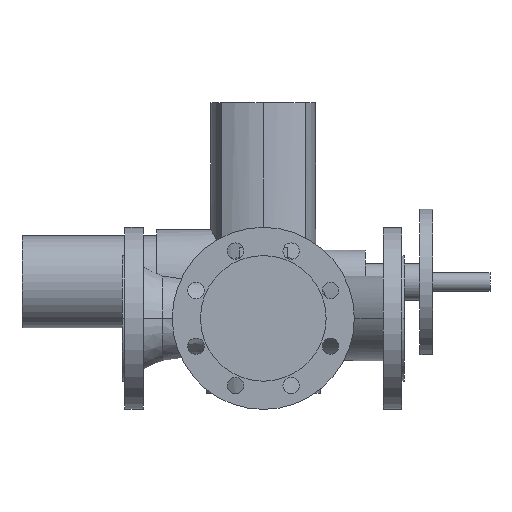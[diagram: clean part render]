
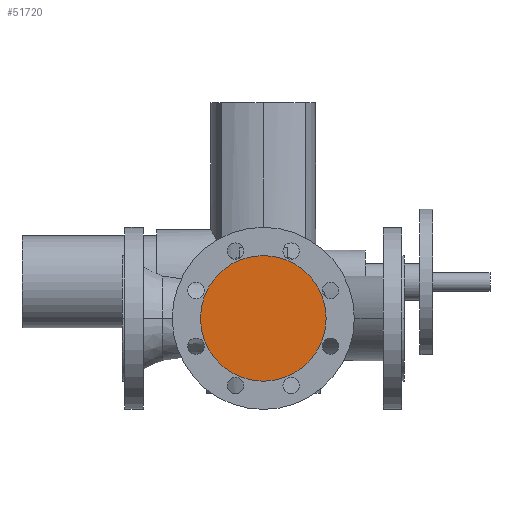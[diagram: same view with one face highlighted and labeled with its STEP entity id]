
A CAD part, front view. The second image highlights one B-rep face of the part: STEP entity #51720.
In plain terms, the highlighted planar face has unit normal (0, -1, 0).
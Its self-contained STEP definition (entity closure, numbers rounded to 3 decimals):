
#2730=CARTESIAN_POINT('',(86.,-130.,0.));
#2740=VERTEX_POINT('',#2730);
#2900=CARTESIAN_POINT('',(224.,-130.,0.));
#2910=VERTEX_POINT('',#2900);
#2940=CARTESIAN_POINT('',(155.,-130.,0.));
#2950=DIRECTION('',(0.,1.,0.));
#2960=DIRECTION('',(1.,0.,0.));
#2970=AXIS2_PLACEMENT_3D('',#2940,#2950,#2960);
#2980=CIRCLE('',#2970,69.);
#2990=EDGE_CURVE('',#2740,#2910,#2980,.T.);
#51620=CARTESIAN_POINT('',(189.5,-130.,0.));
#51630=DIRECTION('',(0.,-1.,0.));
#51640=DIRECTION('',(-1.,0.,0.));
#51650=AXIS2_PLACEMENT_3D('',#51620,#51630,#51640);
#51660=PLANE('',#51650);
#51670=EDGE_CURVE('',#2910,#2740,#2980,.T.);
#51680=ORIENTED_EDGE('',*,*,#51670,.F.);
#51690=ORIENTED_EDGE('',*,*,#2990,.F.);
#51700=EDGE_LOOP('',(#51690,#51680));
#51710=FACE_OUTER_BOUND('',#51700,.T.);
#51720=ADVANCED_FACE('',(#51710),#51660,.T.);
